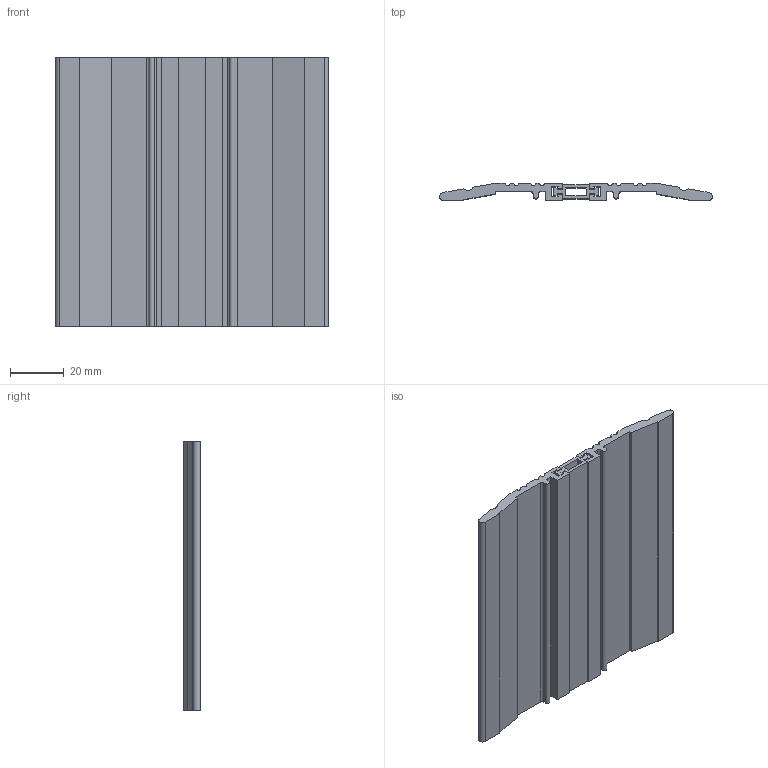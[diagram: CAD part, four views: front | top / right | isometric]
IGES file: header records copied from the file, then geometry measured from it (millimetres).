
Global section: file name: No Iges File Name specified; native system: Autodesk Inventor 2012; preprocessor: AutoDesk Inventor Iges Exporter R2012; author: anna.b; date: 20170316.141000; units: millimetre
Bounding box: 101.6 x 6.35 x 100 mm (x, y, z)
Volume: 36591.4 mm3; surface area: 32567.6 mm2
Topology: 3 solids, 3 shells, 100 faces, 282 edges, 188 vertices
Faces by surface type: plane 82, revolution 14, cylinder 4
